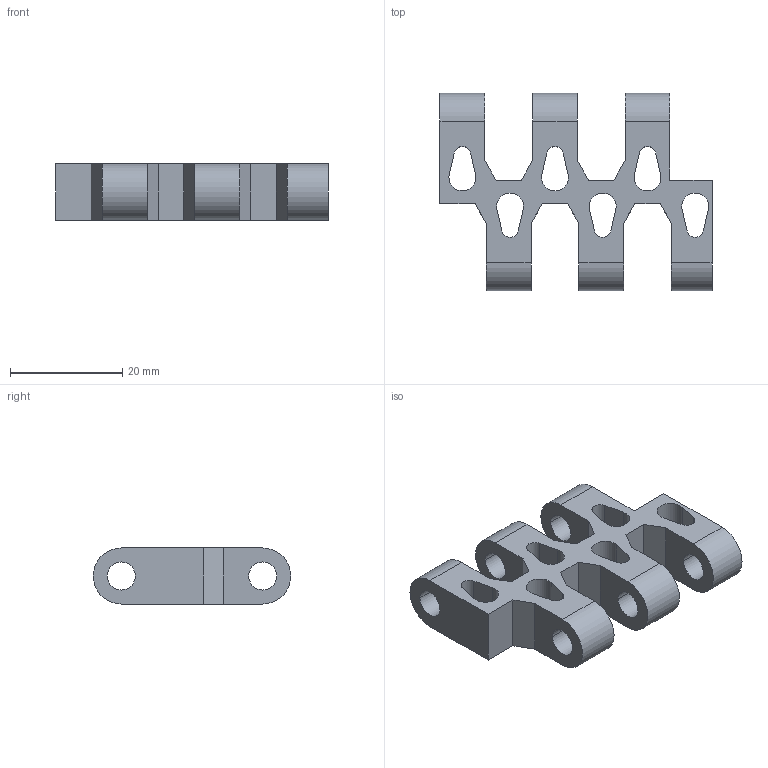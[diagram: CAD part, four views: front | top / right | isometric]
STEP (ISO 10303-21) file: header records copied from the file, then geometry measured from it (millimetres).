
FILE_DESCRIPTION(('CATIA V5 STEP Exchange'),'2;1');
FILE_NAME('C:\Users\ALI OZGUN\Desktop\alhan\910B01P01_50MM.stp','2017-08-25T12:00:33+00:00',('none'),('none'),'CATIA Version 5 Release 21 GA (IN-10)','CATIA V5 STEP AP203','none');
FILE_SCHEMA(('CONFIG_CONTROL_DESIGN'));
Length unit declared in the file: millimetre
Products named in the file (1): 910B01P01_50MM
Bounding box: 48.5 x 35.2 x 10 mm (x, y, z)
Volume: 6523.1 mm3; surface area: 5776.1 mm2
Topology: 1 solids, 1 shells, 71 faces, 207 edges, 138 vertices
Faces by surface type: plane 41, cylinder 30
Entity records: 2301 total; most frequent: ORIENTED_EDGE 414, CARTESIAN_POINT 399, DIRECTION 313, EDGE_CURVE 207, VECTOR 147, LINE 147, VERTEX_POINT 138, AXIS2_PLACEMENT_3D 114
